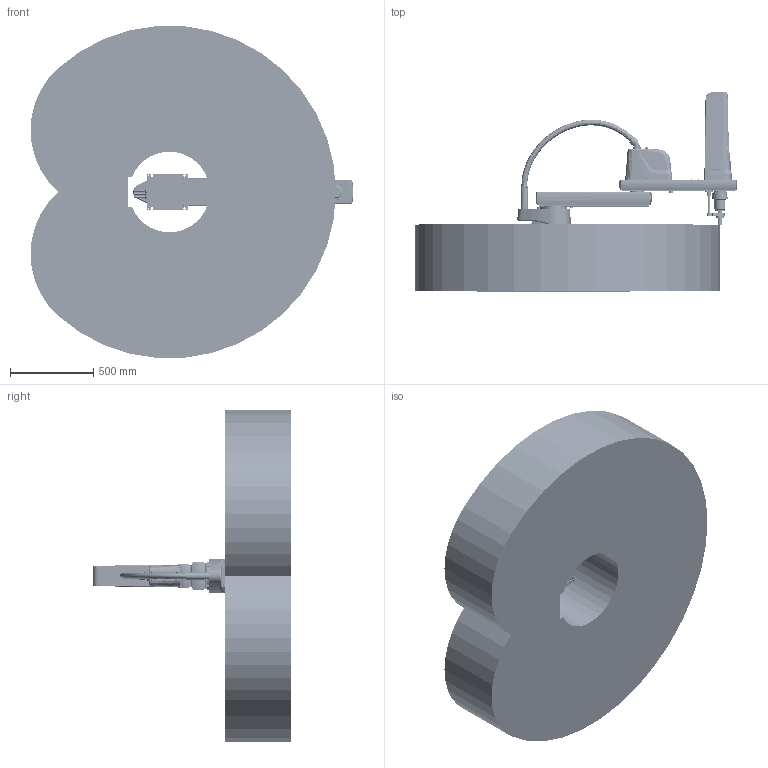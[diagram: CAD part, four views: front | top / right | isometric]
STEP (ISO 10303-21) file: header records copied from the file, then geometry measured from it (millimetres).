
FILE_DESCRIPTION (( 'STEP AP203' ), '1' );
FILE_NAME ('TRH010-1000-400-H_机器人（STEP）.STEP', '2025-07-01T00:52:01', ( 'Windows User' ), ( 'P R C' ), 'SwSTEP 2.0', 'SolidWorks 2023', '' );
FILE_SCHEMA (( 'CONFIG_CONTROL_DESIGN' ));
Length unit declared in the file: millimetre
Products named in the file (8): 复件 TRH010-1000-400-H-4^TRH010-1000-400-H-可拖动机器（SW2023）; 复件 TRH010-1000-400-H-1^TRH010-1000-400-H-可拖动机器（SW2023）; 复件 TRH010-1000-400-H-3^TRH010-1000-400-H-可拖动机器（SW2023）; 复件 TRH010-1000_Space^TRH010-1000-400-H-可拖动机器（SW2023）; TRH010-1000-400-H_机器人（STEP）; 复件 TRH010-1000-400-H-6^TRH010-1000-400-H-可拖动机器（SW2023）; 复件 TRH010-1000-400-H-5^TRH010-1000-400-H-可拖动机器（SW2023）; 复件 TRH010-1000-400-H-2^TRH010-1000-400-H-可拖动机器（SW2023）
Assembly tree (7 placements, depth 2):
  TRH010-1000-400-H_机器人（STEP）
    复件 TRH010-1000-400-H-1^TRH010-1000-400-H-可拖动机器（SW2023）
    复件 TRH010-1000-400-H-2^TRH010-1000-400-H-可拖动机器（SW2023）
    复件 TRH010-1000-400-H-3^TRH010-1000-400-H-可拖动机器（SW2023）
    复件 TRH010-1000-400-H-4^TRH010-1000-400-H-可拖动机器（SW2023）
    复件 TRH010-1000-400-H-5^TRH010-1000-400-H-可拖动机器（SW2023）
    复件 TRH010-1000-400-H-6^TRH010-1000-400-H-可拖动机器（SW2023）
    复件 TRH010-1000_Space^TRH010-1000-400-H-可拖动机器（SW2023）
Bounding box: 1940.16 x 1194 x 1994.41 mm (x, y, z)
Volume: 1157889745.6 mm3; surface area: 10847317.5 mm2
Topology: 32 solids, 186 shells, 8053 faces, 19349 edges, 11865 vertices
Faces by surface type: plane 3145, cylinder 2507, cone 1165, bspline 930, torus 237, sphere 69
Entity records: 287241 total; most frequent: CARTESIAN_POINT 104334, DIRECTION 37997, ORIENTED_EDGE 37882, EDGE_CURVE 18941, AXIS2_PLACEMENT_3D 14787, VERTEX_POINT 11860, EDGE_LOOP 8967, LINE 8423
